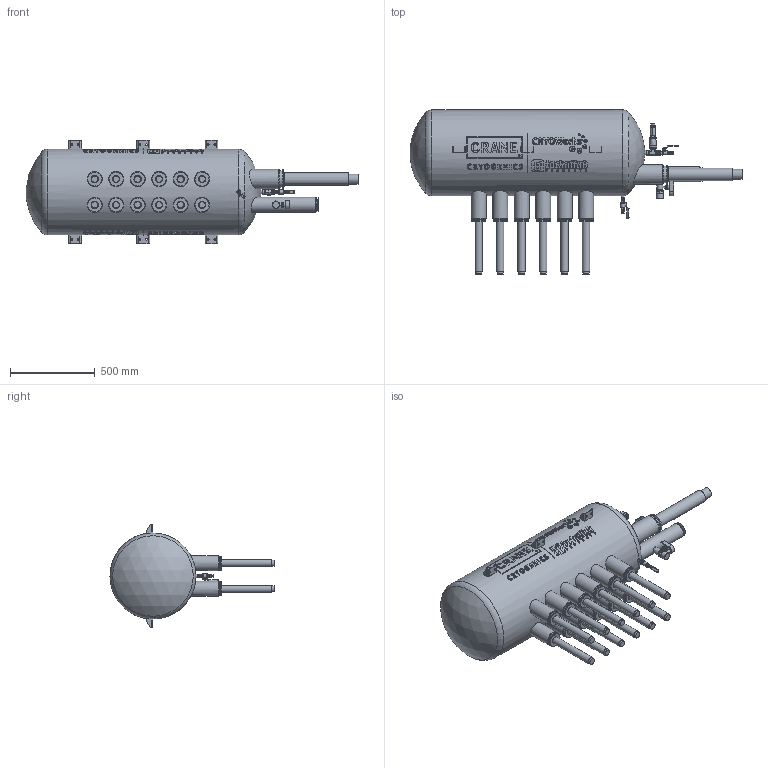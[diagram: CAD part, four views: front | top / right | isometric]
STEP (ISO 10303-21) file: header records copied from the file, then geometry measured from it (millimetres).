
FILE_DESCRIPTION (( 'STEP AP203' ), '1' );
FILE_NAME ('CA01733 CryoWorks High Flow Phase Separator 12 Outlet REV E.STEP', '2026-02-06T22:03:10', ( '' ), ( '' ), 'SwSTEP 2.0', 'SolidWorks 2023', '' );
FILE_SCHEMA (( 'CONFIG_CONTROL_DESIGN' ));
Length unit declared in the file: inch
Products named in the file (1): CA01733 CryoWorks High Flow Phase Separator 12 Outlet REV E
Bounding box: 1962.66 x 969.96 x 611.06 mm (x, y, z)
Volume: 283960970.9 mm3; surface area: 3967909.2 mm2
Topology: 1 solids, 13 shells, 2601 faces, 6501 edges, 4180 vertices
Faces by surface type: plane 1211, cylinder 689, cone 460, bspline 202, torus 27, sphere 12
Full cylindrical faces by diameter (mm): 4.66 x2, 4.75 x2, 4.775 x1, 5.105 x2, 5.527 x14, 5.546 x2, 6.221 x14, 6.272 x4, 6.35 x4, 6.362 x2, 7.112 x1, 7.183 x2, 7.976 x2, 9.188 x2, 9.246 x3, 9.257 x2, 9.525 x12, 9.58 x2, 9.842 x2, 10.262 x1, 10.635 x2, 11.1 x1, 11.112 x6, 11.333 x2, 11.879 x2, 12.494 x2, 12.508 x2, 12.7 x1, 13.494 x2, 14.267 x2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
Entity records: 178585 total; most frequent: CARTESIAN_POINT 123199, ORIENTED_EDGE 11762, DIRECTION 10155, EDGE_CURVE 5881, VERTEX_POINT 4008, AXIS2_PLACEMENT_3D 3897, EDGE_LOOP 3387, FACE_OUTER_BOUND 2843
